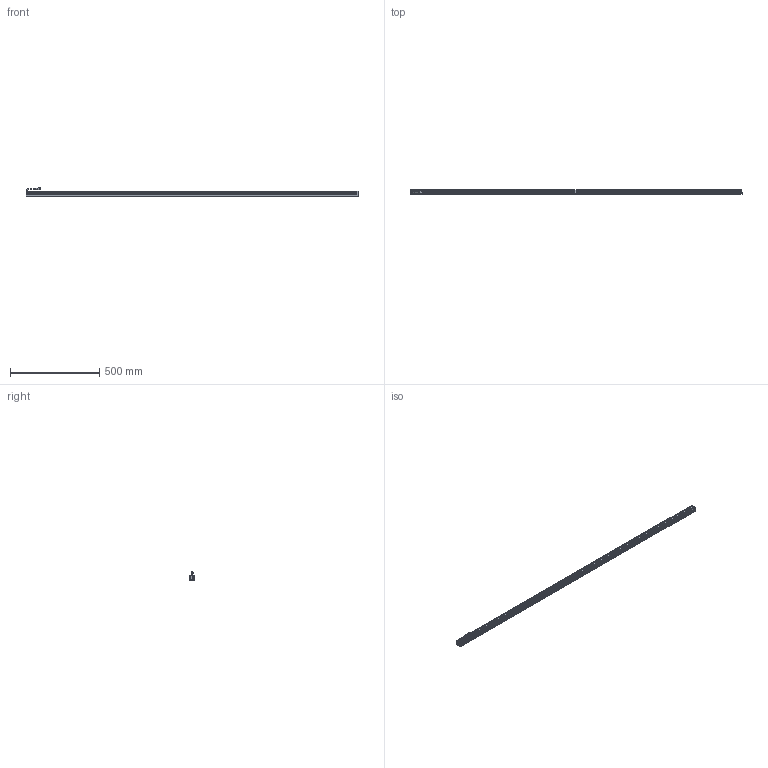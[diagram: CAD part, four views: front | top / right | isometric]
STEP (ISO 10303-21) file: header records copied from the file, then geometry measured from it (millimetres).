
FILE_DESCRIPTION (( 'STEP AP203' ), '1' );
FILE_NAME ('CK-BL185728.STEP', '2026-01-03T02:26:08', ( '' ), ( '' ), 'SwSTEP 2.0', 'SolidWorks 2022', '' );
FILE_SCHEMA (( 'CONFIG_CONTROL_DESIGN' ));
Length unit declared in the file: millimetre
Products named in the file (6): CK-BL185728; 十字沉头螺丝 M2x10; CK-BL185728-003A; 光源线-01; CK-BL185728-002A; CK-BL185728-001A
Assembly tree (11 placements, depth 2):
  CK-BL185728
    CK-BL185728-001A
    CK-BL185728-002A  x2
    CK-BL185728-003A
    光源线-01
    十字沉头螺丝 M2x10  x6
Bounding box: 1857 x 27 x 47.34 mm (x, y, z)
Volume: 588425.6 mm3; surface area: 514419.4 mm2
Topology: 13 solids, 13 shells, 575 faces, 1494 edges, 950 vertices
Faces by surface type: plane 337, cylinder 172, cone 46, bspline 20
Entity records: 13997 total; most frequent: CARTESIAN_POINT 2782, ORIENTED_EDGE 2202, DIRECTION 2163, EDGE_CURVE 1101, VECTOR 781, LINE 781, VERTEX_POINT 714, AXIS2_PLACEMENT_3D 691
